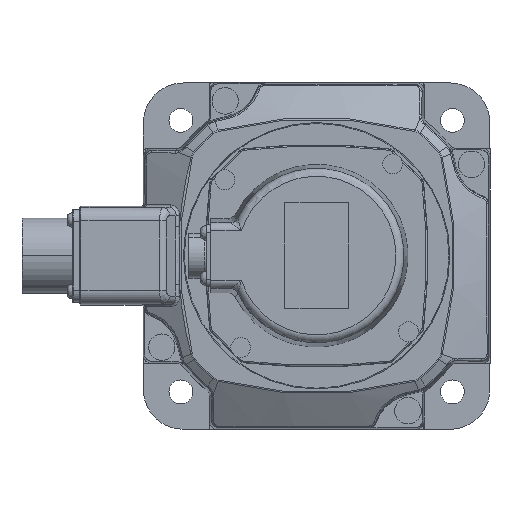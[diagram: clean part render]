
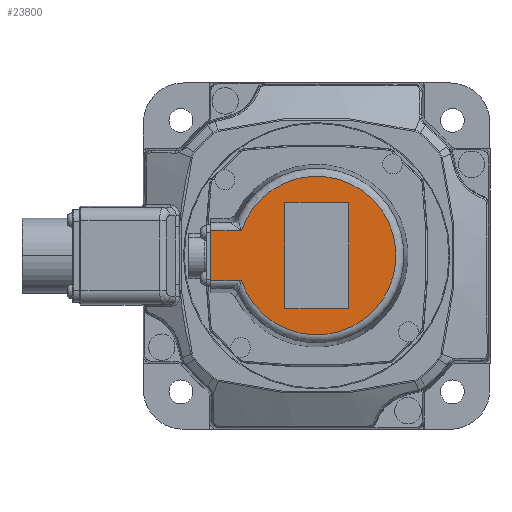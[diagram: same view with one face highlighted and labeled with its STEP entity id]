
A CAD part, top view. The second image highlights one B-rep face of the part: STEP entity #23800.
In plain terms, the highlighted planar face has unit normal (0, 0, 1).
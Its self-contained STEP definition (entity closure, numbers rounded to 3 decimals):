
#5303=DIRECTION('',(0.,1.,0.));
#5304=VECTOR('',#5303,18.921);
#5305=CARTESIAN_POINT('',(-40.,-9.46,109.9));
#5306=LINE('',#5305,#5304);
#5394=CARTESIAN_POINT('',(-28.428,-9.46,
109.9));
#5420=DIRECTION('',(1.,0.,0.));
#5421=VECTOR('',#5420,11.572);
#5422=CARTESIAN_POINT('',(-40.,-9.46,109.9));
#5423=LINE('',#5422,#5421);
#5424=DIRECTION('',(1.,0.,0.));
#5425=VECTOR('',#5424,11.572);
#5426=CARTESIAN_POINT('',(-40.,9.46,109.9));
#5427=LINE('',#5426,#5425);
#5428=CARTESIAN_POINT('',(0.,0.,109.9));
#5429=DIRECTION('',(0.,0.,-1.));
#5430=DIRECTION('',(-0.949,0.316,0.));
#5431=AXIS2_PLACEMENT_3D('',#5428,#5429,#5430);
#5433=DIRECTION('',(1.,0.,0.));
#5434=VECTOR('',#5433,23.2);
#5435=CARTESIAN_POINT('',(-11.6,-20.1,109.9));
#5436=LINE('',#5435,#5434);
#5437=DIRECTION('',(0.,1.,0.));
#5438=VECTOR('',#5437,39.2);
#5439=CARTESIAN_POINT('',(12.1,-19.6,109.9));
#5440=LINE('',#5439,#5438);
#5441=DIRECTION('',(-1.,0.,0.));
#5442=VECTOR('',#5441,23.2);
#5443=CARTESIAN_POINT('',(11.6,20.1,109.9));
#5444=LINE('',#5443,#5442);
#5445=DIRECTION('',(0.,-1.,0.));
#5446=VECTOR('',#5445,39.2);
#5447=CARTESIAN_POINT('',(-12.1,19.6,109.9));
#5448=LINE('',#5447,#5446);
#5449=CARTESIAN_POINT('',(-28.428,9.46,109.9));
#5521=CARTESIAN_POINT('',(-11.6,-19.6,109.9));
#5522=DIRECTION('',(0.,0.,-1.));
#5523=DIRECTION('',(0.,-1.,0.));
#5524=AXIS2_PLACEMENT_3D('',#5521,#5522,#5523);
#5570=CARTESIAN_POINT('',(-11.6,19.6,109.9));
#5571=DIRECTION('',(0.,0.,-1.));
#5572=DIRECTION('',(-1.,0.,0.));
#5573=AXIS2_PLACEMENT_3D('',#5570,#5571,#5572);
#5583=CARTESIAN_POINT('',(11.6,19.6,109.9));
#5584=DIRECTION('',(0.,0.,-1.));
#5585=DIRECTION('',(0.,1.,0.));
#5586=AXIS2_PLACEMENT_3D('',#5583,#5584,#5585);
#5596=CARTESIAN_POINT('',(11.6,-19.6,109.9));
#5597=DIRECTION('',(0.,0.,-1.));
#5598=DIRECTION('',(1.,0.,0.));
#5599=AXIS2_PLACEMENT_3D('',#5596,#5597,#5598);
#15145=CARTESIAN_POINT('',(-40.,-9.46,109.9));
#15147=VERTEX_POINT('',#15145);
#15148=CARTESIAN_POINT('',(-40.,9.46,109.9));
#15150=VERTEX_POINT('',#15148);
#15156=VERTEX_POINT('',#5394);
#15161=VERTEX_POINT('',#5449);
#15228=CARTESIAN_POINT('',(-11.6,-20.1,109.9));
#15229=VERTEX_POINT('',#15228);
#15230=CARTESIAN_POINT('',(-12.1,-19.6,109.9));
#15231=VERTEX_POINT('',#15230);
#15236=CARTESIAN_POINT('',(12.1,-19.6,109.9));
#15237=VERTEX_POINT('',#15236);
#15238=CARTESIAN_POINT('',(11.6,-20.1,109.9));
#15239=VERTEX_POINT('',#15238);
#15244=CARTESIAN_POINT('',(11.6,20.1,109.9));
#15245=VERTEX_POINT('',#15244);
#15246=CARTESIAN_POINT('',(12.1,19.6,109.9));
#15247=VERTEX_POINT('',#15246);
#15252=CARTESIAN_POINT('',(-12.1,19.6,109.9));
#15253=VERTEX_POINT('',#15252);
#15254=CARTESIAN_POINT('',(-11.6,20.1,109.9));
#15255=VERTEX_POINT('',#15254);
#23770=CARTESIAN_POINT('',(0.,0.,109.9));
#23771=DIRECTION('',(0.,0.,-1.));
#23772=DIRECTION('',(0.,1.,0.));
#23773=AXIS2_PLACEMENT_3D('',#23770,#23771,#23772);
#23774=PLANE('',#23773);
#23775=ORIENTED_EDGE('',*,*,#23694,.F.);
#23776=ORIENTED_EDGE('',*,*,#23662,.T.);
#23778=ORIENTED_EDGE('',*,*,#23777,.T.);
#23779=ORIENTED_EDGE('',*,*,#23761,.T.);
#23780=EDGE_LOOP('',(#23775,#23776,#23778,#23779));
#23781=FACE_OUTER_BOUND('',#23780,.F.);
#23783=ORIENTED_EDGE('',*,*,#23782,.T.);
#23785=ORIENTED_EDGE('',*,*,#23784,.F.);
#23787=ORIENTED_EDGE('',*,*,#23786,.T.);
#23789=ORIENTED_EDGE('',*,*,#23788,.F.);
#23791=ORIENTED_EDGE('',*,*,#23790,.T.);
#23793=ORIENTED_EDGE('',*,*,#23792,.F.);
#23795=ORIENTED_EDGE('',*,*,#23794,.T.);
#23797=ORIENTED_EDGE('',*,*,#23796,.F.);
#23798=EDGE_LOOP('',(#23783,#23785,#23787,#23789,#23791,#23793,#23795,#23797));
#23799=FACE_BOUND('',#23798,.F.);
#23800=ADVANCED_FACE('',(#23781,#23799),#23774,.F.);
#5432=CIRCLE('',#5431,29.96);
#5525=CIRCLE('',#5524,0.5);
#5574=CIRCLE('',#5573,0.5);
#5587=CIRCLE('',#5586,0.5);
#5600=CIRCLE('',#5599,0.5);
#23662=EDGE_CURVE('',#15147,#15150,#5306,.T.);
#23694=EDGE_CURVE('',#15147,#15156,#5423,.T.);
#23761=EDGE_CURVE('',#15161,#15156,#5432,.T.);
#23777=EDGE_CURVE('',#15150,#15161,#5427,.T.);
#23782=EDGE_CURVE('',#15229,#15239,#5436,.T.);
#23784=EDGE_CURVE('',#15237,#15239,#5600,.T.);
#23786=EDGE_CURVE('',#15237,#15247,#5440,.T.);
#23788=EDGE_CURVE('',#15245,#15247,#5587,.T.);
#23790=EDGE_CURVE('',#15245,#15255,#5444,.T.);
#23792=EDGE_CURVE('',#15253,#15255,#5574,.T.);
#23794=EDGE_CURVE('',#15253,#15231,#5448,.T.);
#23796=EDGE_CURVE('',#15229,#15231,#5525,.T.);
